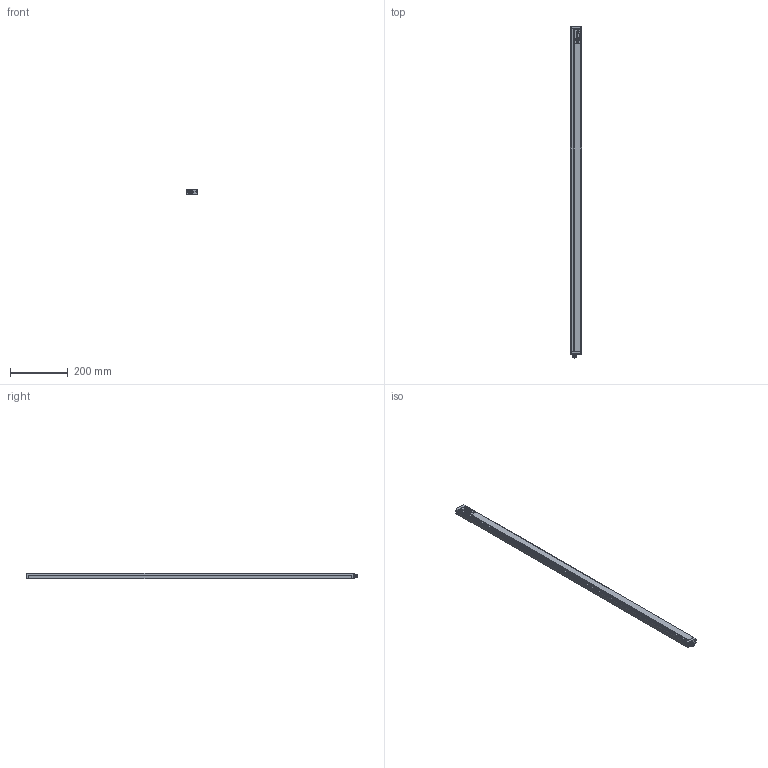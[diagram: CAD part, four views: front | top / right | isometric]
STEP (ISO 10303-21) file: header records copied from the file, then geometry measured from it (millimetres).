
FILE_DESCRIPTION(/* description */ (''),/* implementation_level */ '2;1');
FILE_NAME(/* name */ 'C:\Users\andre\SynologyDrive\Optoscan\Libreria Componenti\00 - Barriere\Barriera sorgente\Argo_1120_TX.stp',/* time_stamp */ '2021-04-22T10:22:09+02:00',/* author */ ('andre'),/* organization */ (''),/* preprocessor_version */ 'ST-DEVELOPER v18',/* originating_system */ 'Autodesk Inventor 2020',/* authorisation */ '');
FILE_SCHEMA (('AUTOMOTIVE_DESIGN { 1 0 10303 214 3 1 1 }'));
Length unit declared in the file: millimetre
Products named in the file (1): Argo_1120_TX
Bounding box: 40.5 x 1153.3 x 20.75 mm (x, y, z)
Volume: 229476.4 mm3; surface area: 299499.3 mm2
Topology: 1 solids, 1 shells, 696 faces, 1911 edges, 1225 vertices
Faces by surface type: plane 321, cylinder 195, bspline 94, torus 72, cone 8, sphere 6
Full cylindrical faces by diameter (mm): 1 x4, 2.459 x4, 2.5 x4, 3 x4, 3.5 x4, 5.5 x4, 8 x1, 10.5 x2, 11.75 x9, 15.7 x1, 17.5 x1
Entity records: 30770 total; most frequent: CARTESIAN_POINT 12670, ORIENTED_EDGE 3806, DIRECTION 3415, EDGE_CURVE 1903, VERTEX_POINT 1225, AXIS2_PLACEMENT_3D 1193, LINE 1029, VECTOR 1029
